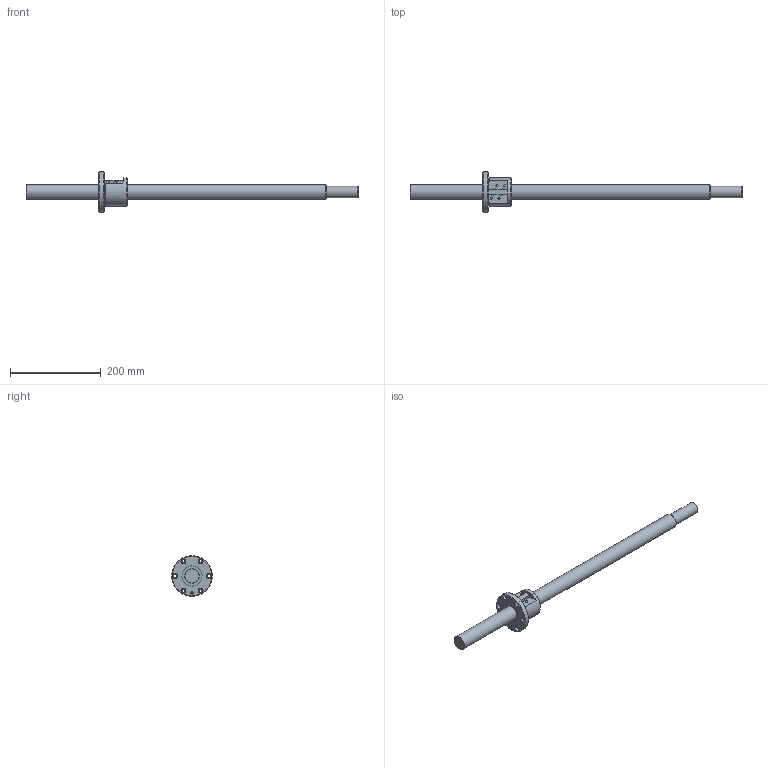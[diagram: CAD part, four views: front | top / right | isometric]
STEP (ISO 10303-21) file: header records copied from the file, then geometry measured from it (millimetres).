
FILE_DESCRIPTION(/* description */ ('STEP AP203'),/* implementation_level */ '2;1');
FILE_NAME(/* name */ 'BNF3206-5RRG1+730LC5A(00)',/* time_stamp */ '2024-07-15T07:48:55+02:00',/* author */ ('License CC BY-ND 4.0'),/* organization */ ('CADENAS'),/* preprocessor_version */ 'ST-DEVELOPER v19.3',/* originating_system */ 'PARTsolutions',/* authorisation */ ' ');
FILE_SCHEMA (('CONFIG_CONTROL_DESIGN'));
Length unit declared in the file: millimetre
Products named in the file (3): BNF3206-5RRG1+730LC5A(00); BNF3206-5RRG1+730LC5A(00)_shaft; BNF 3206-5RR_nut
Assembly tree (2 placements, depth 2):
  BNF3206-5RRG1+730LC5A(00)
    BNF3206-5RRG1+730LC5A(00)_shaft
    BNF 3206-5RR_nut
Bounding box: 730 x 89 x 89 mm (x, y, z)
Volume: 719067.7 mm3; surface area: 107599.4 mm2
Topology: 2 solids, 2 shells, 69 faces, 159 edges, 104 vertices
Faces by surface type: cylinder 32, plane 24, cone 9, torus 4
Full cylindrical faces by diameter (mm): 3 x2, 4.131 x4, 4.917 x1, 6.6 x6, 11 x6, 25.3 x1, 32 x2, 44 x2, 62 x1, 89 x1
Entity records: 1811 total; most frequent: DIRECTION 316, CARTESIAN_POINT 314, ORIENTED_EDGE 212, AXIS2_PLACEMENT_3D 146, EDGE_LOOP 142, FACE_BOUND 142, EDGE_CURVE 106, VERTEX_POINT 90
